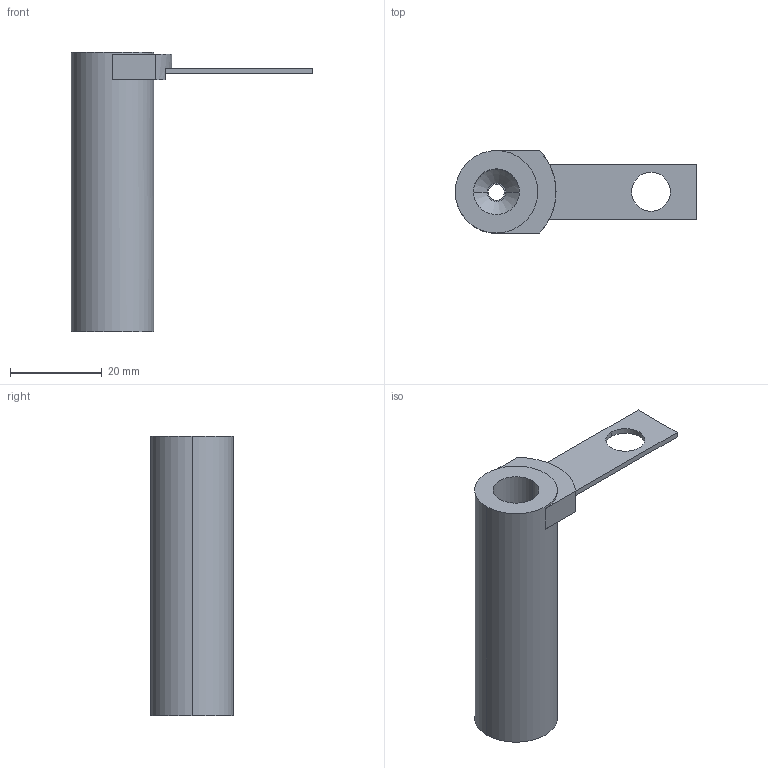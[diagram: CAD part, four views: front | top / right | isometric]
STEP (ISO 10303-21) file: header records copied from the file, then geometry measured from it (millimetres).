
FILE_DESCRIPTION(/* description */ (''),/* implementation_level */ '2;1');
FILE_NAME(/* name */ '3d_tus10-61_06251_r00.stp',/* time_stamp */ '2011-01-10T14:08:55+09:00',/* author */ ('MISUMI'),/* organization */ (''),/* preprocessor_version */ 'ST-DEVELOPER v11',/* originating_system */ 'UGS - NX 5.0',/* authorisation */ '');
FILE_SCHEMA (('CONFIG_CONTROL_DESIGN'));
Length unit declared in the file: millimetre
Products named in the file (1): 3d_tus10-61_06251_r00
Bounding box: 52.71 x 18 x 61 mm (x, y, z)
Volume: 12035 mm3; surface area: 6779.9 mm2
Topology: 2 solids, 2 shells, 28 faces, 67 edges, 44 vertices
Faces by surface type: plane 17, cylinder 9, cone 2
Entity records: 915 total; most frequent: DIRECTION 153, CARTESIAN_POINT 140, ORIENTED_EDGE 134, EDGE_CURVE 67, AXIS2_PLACEMENT_3D 57, VERTEX_POINT 44, LINE 39, VECTOR 39
